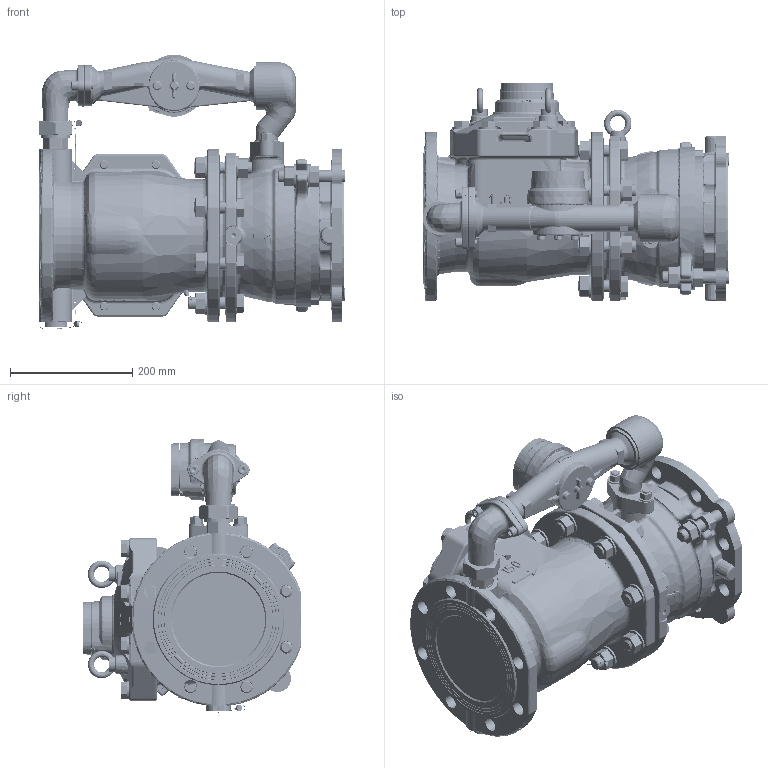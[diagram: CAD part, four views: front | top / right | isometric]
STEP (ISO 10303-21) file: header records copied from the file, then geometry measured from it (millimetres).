
FILE_DESCRIPTION (( 'STEP AP214' ), '1' );
FILE_NAME ('MWN_JS_150_10 IP68.STEP', '2025-07-15T11:08:18', ( '' ), ( '' ), 'SwSTEP 2.0', 'SolidWorks 2019', '' );
FILE_SCHEMA (( 'AUTOMOTIVE_DESIGN' ));
Length unit declared in the file: millimetre
Products named in the file (6): 7411-100000; MWN_JS_150_10 IP65; 5003-110009; MWN_JS_150_10 IP68; 0000-004541; 5003-110011
Assembly tree (5 placements, depth 3):
  MWN_JS_150_10 IP68
    MWN_JS_150_10 IP65
    7411-100000
      5003-110011
      0000-004541
    5003-110009
Bounding box: 503 x 356.74 x 450.05 mm (x, y, z)
Volume: 23882821.7 mm3; surface area: 2191844.6 mm2
Topology: 87 solids, 108 shells, 6964 faces, 17474 edges, 10753 vertices
Faces by surface type: cylinder 2285, plane 2058, bspline 986, cone 696, torus 617, sphere 322
Entity records: 395788 total; most frequent: CARTESIAN_POINT 169856, ORIENTED_EDGE 34272, DIRECTION 31540, EDGE_CURVE 17136, AXIS2_PLACEMENT_3D 12814, VERTEX_POINT 10680, EDGE_LOOP 7646, ADVANCED_FACE 6962
